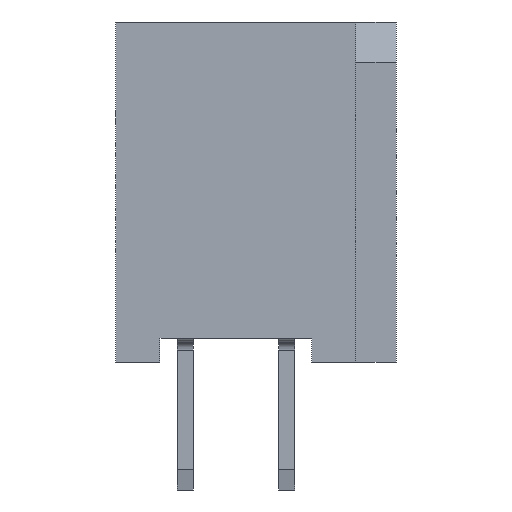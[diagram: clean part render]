
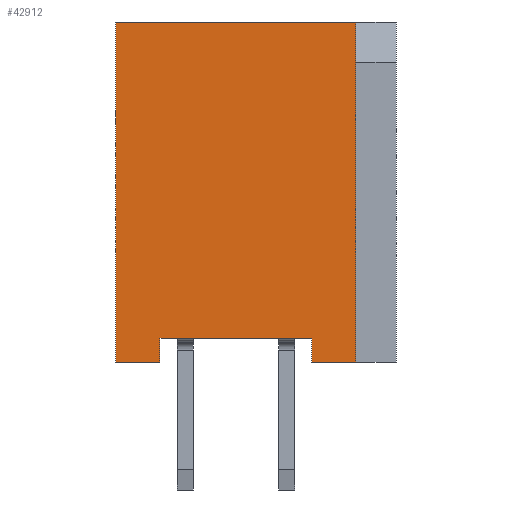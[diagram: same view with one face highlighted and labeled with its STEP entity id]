
A CAD part, left-side view. The second image highlights one B-rep face of the part: STEP entity #42912.
In plain terms, the highlighted planar face has unit normal (-1, 0, 0).
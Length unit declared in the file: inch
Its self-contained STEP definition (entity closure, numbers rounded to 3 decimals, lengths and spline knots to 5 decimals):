
#231 = ORIENTED_EDGE ( 'NONE', *, *, #13414, .F. ) ;
#511 = DIRECTION ( 'NONE',  ( 0., 1., 0. ) ) ;
#1176 = VECTOR ( 'NONE', #38902, 39.37008 ) ;
#3548 = VERTEX_POINT ( 'NONE', #44047 ) ;
#4990 = CARTESIAN_POINT ( 'NONE',  ( 31.78004, -25.21201, -0.19512 ) ) ;
#5335 = ORIENTED_EDGE ( 'NONE', *, *, #27292, .F. ) ;
#5441 = CARTESIAN_POINT ( 'NONE',  ( 31.78004, -25.21201, 0.1159 ) ) ;
#5987 = VERTEX_POINT ( 'NONE', #13404 ) ;
#8631 = DIRECTION ( 'NONE',  ( 0., 0., 1. ) ) ;
#9889 = CARTESIAN_POINT ( 'NONE',  ( 31.78004, -25.06241, -0.19512 ) ) ;
#9936 = VECTOR ( 'NONE', #8631, 39.37008 ) ;
#11974 = DIRECTION ( 'NONE',  ( 0., 1., 0. ) ) ;
#12955 = CARTESIAN_POINT ( 'NONE',  ( 31.78004, -25.0191, 0.1159 ) ) ;
#13404 = CARTESIAN_POINT ( 'NONE',  ( 31.78004, -25.25532, -0.21874 ) ) ;
#13414 = EDGE_CURVE ( 'NONE', #35866, #28790, #14997, .T. ) ;
#13496 = EDGE_CURVE ( 'NONE', #13748, #15196, #40129, .T. ) ;
#13748 = VERTEX_POINT ( 'NONE', #46889 ) ;
#14677 = ORIENTED_EDGE ( 'NONE', *, *, #56972, .F. ) ;
#14997 = LINE ( 'NONE', #5441, #42799 ) ;
#15196 = VERTEX_POINT ( 'NONE', #53725 ) ;
#15780 = CARTESIAN_POINT ( 'NONE',  ( 31.78004, -25.13721, 0.1159 ) ) ;
#19145 = EDGE_CURVE ( 'NONE', #28790, #37304, #27050, .T. ) ;
#21364 = EDGE_LOOP ( 'NONE', ( #59130, #25700, #231, #5335, #33310, #14677, #21643, #41606 ) ) ;
#21643 = ORIENTED_EDGE ( 'NONE', *, *, #56078, .F. ) ;
#22136 = CARTESIAN_POINT ( 'NONE',  ( 31.78004, -25.0191, -0.19512 ) ) ;
#22839 = VECTOR ( 'NONE', #52587, 39.37008 ) ;
#23675 = VECTOR ( 'NONE', #50178, 39.37008 ) ;
#24499 = DIRECTION ( 'NONE',  ( 1., 0., 0. ) ) ;
#25700 = ORIENTED_EDGE ( 'NONE', *, *, #19145, .F. ) ;
#27050 = LINE ( 'NONE', #22136, #23675 ) ;
#27292 = EDGE_CURVE ( 'NONE', #5987, #35866, #40312, .T. ) ;
#28790 = VERTEX_POINT ( 'NONE', #4990 ) ;
#28849 = CARTESIAN_POINT ( 'NONE',  ( 31.78004, -25.15689, 0.03224 ) ) ;
#29754 = CARTESIAN_POINT ( 'NONE',  ( 31.78004, -25.06241, 0.1159 ) ) ;
#29779 = CARTESIAN_POINT ( 'NONE',  ( 31.78004, -25.25532, 0.03224 ) ) ;
#30227 = VERTEX_POINT ( 'NONE', #12955 ) ;
#30661 = VECTOR ( 'NONE', #11974, 39.37008 ) ;
#33310 = ORIENTED_EDGE ( 'NONE', *, *, #50194, .F. ) ;
#33777 = PLANE ( 'NONE',  #55298 ) ;
#35866 = VERTEX_POINT ( 'NONE', #36395 ) ;
#36395 = CARTESIAN_POINT ( 'NONE',  ( 31.78004, -25.21201, -0.21874 ) ) ;
#37001 = LINE ( 'NONE', #59820, #9936 ) ;
#37304 = VERTEX_POINT ( 'NONE', #9889 ) ;
#38902 = DIRECTION ( 'NONE',  ( 0., -1., 0. ) ) ;
#39863 = VECTOR ( 'NONE', #511, 39.37008 ) ;
#40129 = LINE ( 'NONE', #58960, #39863 ) ;
#40312 = LINE ( 'NONE', #40913, #30661 ) ;
#40913 = CARTESIAN_POINT ( 'NONE',  ( 31.78004, -25.18052, -0.21874 ) ) ;
#41606 = ORIENTED_EDGE ( 'NONE', *, *, #13496, .F. ) ;
#42799 = VECTOR ( 'NONE', #49387, 39.37008 ) ;
#42912 = ADVANCED_FACE ( 'NONE', ( #52270 ), #33777, .F. ) ;
#43299 = DIRECTION ( 'NONE',  ( 0., 0., -1. ) ) ;
#44047 = CARTESIAN_POINT ( 'NONE',  ( 31.78004, -25.25532, 0.1159 ) ) ;
#46889 = CARTESIAN_POINT ( 'NONE',  ( 31.78004, -25.06241, -0.21874 ) ) ;
#46892 = VECTOR ( 'NONE', #47971, 39.37008 ) ;
#47227 = EDGE_CURVE ( 'NONE', #37304, #13748, #57223, .T. ) ;
#47971 = DIRECTION ( 'NONE',  ( 0., 0., -1. ) ) ;
#49387 = DIRECTION ( 'NONE',  ( 0., 0., 1. ) ) ;
#50178 = DIRECTION ( 'NONE',  ( 0., 1., 0. ) ) ;
#50194 = EDGE_CURVE ( 'NONE', #3548, #5987, #52901, .T. ) ;
#52270 = FACE_OUTER_BOUND ( 'NONE', #21364, .T. ) ;
#52587 = DIRECTION ( 'NONE',  ( 0., 0., -1. ) ) ;
#52901 = LINE ( 'NONE', #29779, #46892 ) ;
#53725 = CARTESIAN_POINT ( 'NONE',  ( 31.78004, -25.0191, -0.21874 ) ) ;
#55298 = AXIS2_PLACEMENT_3D ( 'NONE', #28849, #24499, #43299 ) ;
#56078 = EDGE_CURVE ( 'NONE', #15196, #30227, #37001, .T. ) ;
#56972 = EDGE_CURVE ( 'NONE', #30227, #3548, #58011, .T. ) ;
#57223 = LINE ( 'NONE', #29754, #22839 ) ;
#58011 = LINE ( 'NONE', #15780, #1176 ) ;
#58960 = CARTESIAN_POINT ( 'NONE',  ( 31.78004, -25.15689, -0.21874 ) ) ;
#59130 = ORIENTED_EDGE ( 'NONE', *, *, #47227, .F. ) ;
#59820 = CARTESIAN_POINT ( 'NONE',  ( 31.78004, -25.0191, 0.19956 ) ) ;
